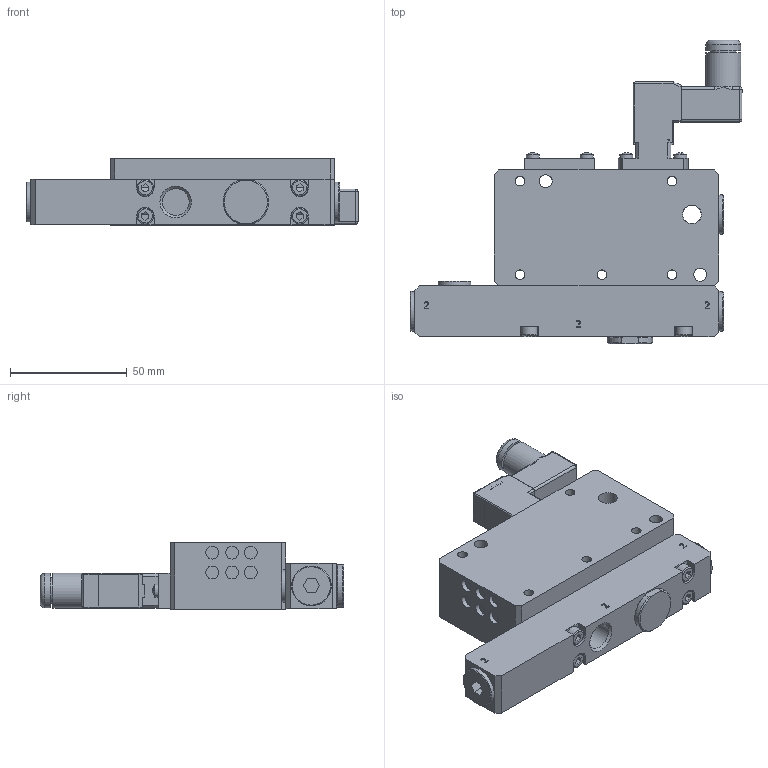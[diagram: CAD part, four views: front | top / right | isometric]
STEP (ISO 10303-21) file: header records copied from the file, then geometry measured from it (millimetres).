
FILE_DESCRIPTION(/* description */ ('GENERATORI DI VUOTO MULTISTADIO MODULARE 8 UGELLI (GVMES-8) SENZA VACUOSTATO ED EV. CONTROSOFFIO'),/* implementation_level */ '2;1');
FILE_NAME(/* name */ 'C:\PNX_VAULTFOLDER\Area Tecnica\Disegni\VARIE-3D\Componenti\1900 (vuoto)\19M14_M_18_ME_04.stp',/* time_stamp */ '2021-05-04T09:55:42+02:00',/* author */ ('maniean1'),/* organization */ (''),/* preprocessor_version */ 'ST-DEVELOPER v18.1',/* originating_system */ 'Autodesk Inventor 2021',/* authorisation */ '');
FILE_SCHEMA (('AUTOMOTIVE_DESIGN { 1 0 10303 214 3 1 1 }'));
Length unit declared in the file: millimetre
Products named in the file (7): 19M14.M.18.ME.04; 19M14_M_15_ME_ED_c; N221.0F; T10714; N221.00; T10718; 315.11.00
Assembly tree (8 placements, depth 2):
  19M14.M.18.ME.04
    19M14_M_15_ME_ED_c
    N221.0F
    T10714  x3
    N221.00
    T10718
    315.11.00
Bounding box: 141.9 x 129.85 x 28.5 mm (x, y, z)
Volume: 206309 mm3; surface area: 44651.8 mm2
Topology: 8 solids, 24 shells, 774 faces, 1933 edges, 1253 vertices
Faces by surface type: plane 433, cylinder 172, bspline 94, cone 48, torus 16, sphere 11
Full cylindrical faces by diameter (mm): 1 x2, 2.459 x5, 3 x5, 3.2 x2, 3.242 x4, 3.8 x1, 4 x4, 4.1 x10, 4.4 x1, 4.9 x1, 5.5 x12, 6.5 x1, 6.9 x1, 7 x6, 7.6 x1, 8 x2, 8.566 x1, 10 x2, 10.4 x1, 10.8 x1, 11.445 x4, 13.2 x3, 14 x1, 14.8 x1, 15 x1, 17 x3
Entity records: 30554 total; most frequent: CARTESIAN_POINT 11904, ORIENTED_EDGE 3732, DIRECTION 3411, EDGE_CURVE 1866, VERTEX_POINT 1219, LINE 1137, VECTOR 1137, AXIS2_PLACEMENT_3D 1137
